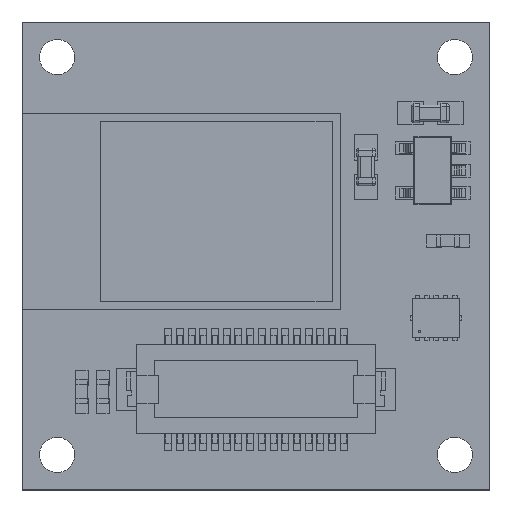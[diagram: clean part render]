
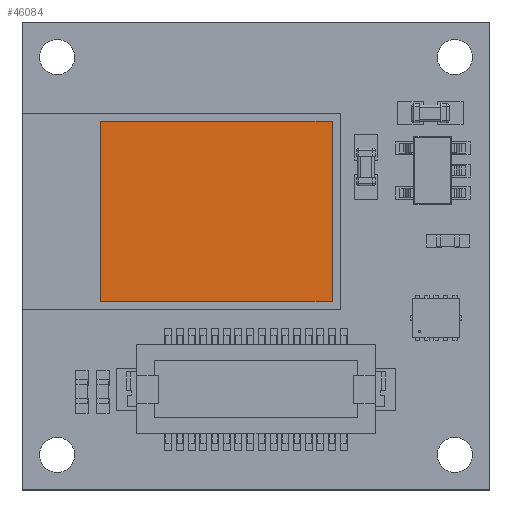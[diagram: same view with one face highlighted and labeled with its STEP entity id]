
A CAD part, top view. The second image highlights one B-rep face of the part: STEP entity #46084.
In plain terms, the highlighted planar face has unit normal (0, 0, 1).
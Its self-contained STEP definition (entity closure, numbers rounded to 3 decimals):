
#45783 = PLANE('',#45784);
#45784 = AXIS2_PLACEMENT_3D('',#45785,#45786,#45787);
#45785 = CARTESIAN_POINT('',(23.25,25.75,1.11));
#45786 = DIRECTION('',(1.,0.,0.));
#45787 = DIRECTION('',(0.,-1.,0.));
#45811 = PLANE('',#45812);
#45812 = AXIS2_PLACEMENT_3D('',#45813,#45814,#45815);
#45813 = CARTESIAN_POINT('',(13.35,25.75,1.11));
#45814 = DIRECTION('',(0.,1.,0.));
#45815 = DIRECTION('',(1.,0.,0.));
#45839 = PLANE('',#45840);
#45840 = AXIS2_PLACEMENT_3D('',#45841,#45842,#45843);
#45841 = CARTESIAN_POINT('',(13.35,18.05,1.11));
#45842 = DIRECTION('',(-1.,0.,0.));
#45843 = DIRECTION('',(0.,1.,0.));
#45865 = PLANE('',#45866);
#45866 = AXIS2_PLACEMENT_3D('',#45867,#45868,#45869);
#45867 = CARTESIAN_POINT('',(23.25,18.05,1.11));
#45868 = DIRECTION('',(0.,-1.,0.));
#45869 = DIRECTION('',(-1.,0.,0.));
#45888 = VERTEX_POINT('',#45889);
#45889 = CARTESIAN_POINT('',(23.25,25.75,2.4));
#45910 = EDGE_CURVE('',#45888,#45911,#45913,.T.);
#45911 = VERTEX_POINT('',#45912);
#45912 = CARTESIAN_POINT('',(23.25,18.05,2.4));
#45913 = SURFACE_CURVE('',#45914,(#45918,#45925),.PCURVE_S1.);
#45914 = LINE('',#45915,#45916);
#45915 = CARTESIAN_POINT('',(23.25,25.75,2.4));
#45916 = VECTOR('',#45917,1.);
#45917 = DIRECTION('',(0.,-1.,0.));
#45918 = PCURVE('',#45783,#45919);
#45919 = DEFINITIONAL_REPRESENTATION('',(#45920),#45924);
#45920 = LINE('',#45921,#45922);
#45921 = CARTESIAN_POINT('',(0.,-1.29));
#45922 = VECTOR('',#45923,1.);
#45923 = DIRECTION('',(1.,0.));
#45924 = ( GEOMETRIC_REPRESENTATION_CONTEXT(2) 
PARAMETRIC_REPRESENTATION_CONTEXT() REPRESENTATION_CONTEXT('2D SPACE',''
  ) );
#45925 = PCURVE('',#45926,#45931);
#45926 = PLANE('',#45927);
#45927 = AXIS2_PLACEMENT_3D('',#45928,#45929,#45930);
#45928 = CARTESIAN_POINT('',(18.3,21.9,2.4));
#45929 = DIRECTION('',(0.,0.,-1.));
#45930 = DIRECTION('',(-1.,0.,0.));
#45931 = DEFINITIONAL_REPRESENTATION('',(#45932),#45936);
#45932 = LINE('',#45933,#45934);
#45933 = CARTESIAN_POINT('',(-4.95,3.85));
#45934 = VECTOR('',#45935,1.);
#45935 = DIRECTION('',(0.,-1.));
#45936 = ( GEOMETRIC_REPRESENTATION_CONTEXT(2) 
PARAMETRIC_REPRESENTATION_CONTEXT() REPRESENTATION_CONTEXT('2D SPACE',''
  ) );
#45964 = EDGE_CURVE('',#45911,#45965,#45967,.T.);
#45965 = VERTEX_POINT('',#45966);
#45966 = CARTESIAN_POINT('',(13.35,18.05,2.4));
#45967 = SURFACE_CURVE('',#45968,(#45972,#45979),.PCURVE_S1.);
#45968 = LINE('',#45969,#45970);
#45969 = CARTESIAN_POINT('',(23.25,18.05,2.4));
#45970 = VECTOR('',#45971,1.);
#45971 = DIRECTION('',(-1.,0.,0.));
#45972 = PCURVE('',#45865,#45973);
#45973 = DEFINITIONAL_REPRESENTATION('',(#45974),#45978);
#45974 = LINE('',#45975,#45976);
#45975 = CARTESIAN_POINT('',(0.,-1.29));
#45976 = VECTOR('',#45977,1.);
#45977 = DIRECTION('',(1.,0.));
#45978 = ( GEOMETRIC_REPRESENTATION_CONTEXT(2) 
PARAMETRIC_REPRESENTATION_CONTEXT() REPRESENTATION_CONTEXT('2D SPACE',''
  ) );
#45979 = PCURVE('',#45926,#45980);
#45980 = DEFINITIONAL_REPRESENTATION('',(#45981),#45985);
#45981 = LINE('',#45982,#45983);
#45982 = CARTESIAN_POINT('',(-4.95,-3.85));
#45983 = VECTOR('',#45984,1.);
#45984 = DIRECTION('',(1.,0.));
#45985 = ( GEOMETRIC_REPRESENTATION_CONTEXT(2) 
PARAMETRIC_REPRESENTATION_CONTEXT() REPRESENTATION_CONTEXT('2D SPACE',''
  ) );
#46013 = EDGE_CURVE('',#45965,#46014,#46016,.T.);
#46014 = VERTEX_POINT('',#46015);
#46015 = CARTESIAN_POINT('',(13.35,25.75,2.4));
#46016 = SURFACE_CURVE('',#46017,(#46021,#46028),.PCURVE_S1.);
#46017 = LINE('',#46018,#46019);
#46018 = CARTESIAN_POINT('',(13.35,18.05,2.4));
#46019 = VECTOR('',#46020,1.);
#46020 = DIRECTION('',(0.,1.,0.));
#46021 = PCURVE('',#45839,#46022);
#46022 = DEFINITIONAL_REPRESENTATION('',(#46023),#46027);
#46023 = LINE('',#46024,#46025);
#46024 = CARTESIAN_POINT('',(0.,-1.29));
#46025 = VECTOR('',#46026,1.);
#46026 = DIRECTION('',(1.,0.));
#46027 = ( GEOMETRIC_REPRESENTATION_CONTEXT(2) 
PARAMETRIC_REPRESENTATION_CONTEXT() REPRESENTATION_CONTEXT('2D SPACE',''
  ) );
#46028 = PCURVE('',#45926,#46029);
#46029 = DEFINITIONAL_REPRESENTATION('',(#46030),#46034);
#46030 = LINE('',#46031,#46032);
#46031 = CARTESIAN_POINT('',(4.95,-3.85));
#46032 = VECTOR('',#46033,1.);
#46033 = DIRECTION('',(0.,1.));
#46034 = ( GEOMETRIC_REPRESENTATION_CONTEXT(2) 
PARAMETRIC_REPRESENTATION_CONTEXT() REPRESENTATION_CONTEXT('2D SPACE',''
  ) );
#46062 = EDGE_CURVE('',#46014,#45888,#46063,.T.);
#46063 = SURFACE_CURVE('',#46064,(#46068,#46075),.PCURVE_S1.);
#46064 = LINE('',#46065,#46066);
#46065 = CARTESIAN_POINT('',(13.35,25.75,2.4));
#46066 = VECTOR('',#46067,1.);
#46067 = DIRECTION('',(1.,0.,0.));
#46068 = PCURVE('',#45811,#46069);
#46069 = DEFINITIONAL_REPRESENTATION('',(#46070),#46074);
#46070 = LINE('',#46071,#46072);
#46071 = CARTESIAN_POINT('',(0.,-1.29));
#46072 = VECTOR('',#46073,1.);
#46073 = DIRECTION('',(1.,0.));
#46074 = ( GEOMETRIC_REPRESENTATION_CONTEXT(2) 
PARAMETRIC_REPRESENTATION_CONTEXT() REPRESENTATION_CONTEXT('2D SPACE',''
  ) );
#46075 = PCURVE('',#45926,#46076);
#46076 = DEFINITIONAL_REPRESENTATION('',(#46077),#46081);
#46077 = LINE('',#46078,#46079);
#46078 = CARTESIAN_POINT('',(4.95,3.85));
#46079 = VECTOR('',#46080,1.);
#46080 = DIRECTION('',(-1.,0.));
#46081 = ( GEOMETRIC_REPRESENTATION_CONTEXT(2) 
PARAMETRIC_REPRESENTATION_CONTEXT() REPRESENTATION_CONTEXT('2D SPACE',''
  ) );
#46084 = ADVANCED_FACE('',(#46085),#45926,.F.);
#46085 = FACE_BOUND('',#46086,.F.);
#46086 = EDGE_LOOP('',(#46087,#46088,#46089,#46090));
#46087 = ORIENTED_EDGE('',*,*,#45910,.T.);
#46088 = ORIENTED_EDGE('',*,*,#45964,.T.);
#46089 = ORIENTED_EDGE('',*,*,#46013,.T.);
#46090 = ORIENTED_EDGE('',*,*,#46062,.T.);
